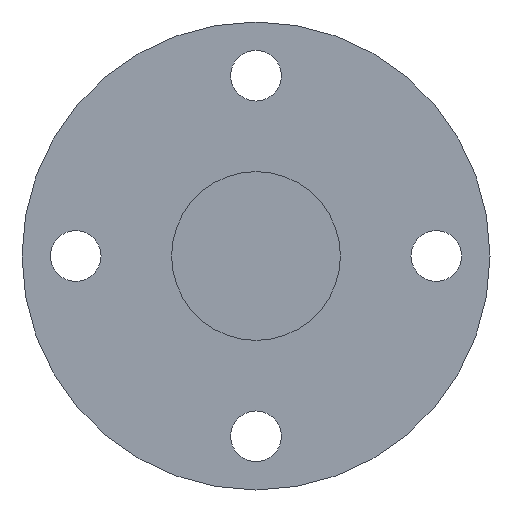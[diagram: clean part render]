
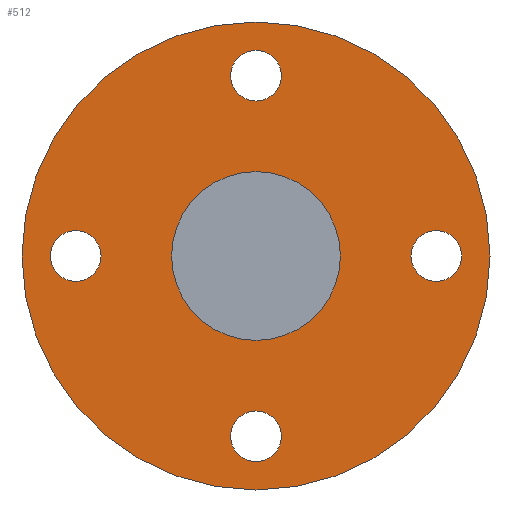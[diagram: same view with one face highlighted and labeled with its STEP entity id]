
A CAD part, left-side view. The second image highlights one B-rep face of the part: STEP entity #512.
In plain terms, the highlighted planar face has unit normal (-1, 0, 0).
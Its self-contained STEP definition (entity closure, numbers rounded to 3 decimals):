
#401=CARTESIAN_POINT('',(125.0,23.5,-3.3));
#402=VERTEX_POINT('',#401);
#403=CARTESIAN_POINT('',(125.0,23.5,0.));
#404=DIRECTION('',(1.0,0.0,0.0));
#405=DIRECTION('',(0.0,0.0,-1.0));
#406=AXIS2_PLACEMENT_3D('',#403,#404,#405);
#407=CIRCLE('',#406,3.3);
#408=EDGE_CURVE('',#402,#402,#407,.T.);
#421=CARTESIAN_POINT('',(125.0,-3.3,-23.5));
#422=VERTEX_POINT('',#421);
#423=CARTESIAN_POINT('',(125.0,0.,-23.5));
#424=DIRECTION('',(1.0,0.0,0.0));
#425=DIRECTION('',(0.0,-1.0,0.0));
#426=AXIS2_PLACEMENT_3D('',#423,#424,#425);
#427=CIRCLE('',#426,3.3);
#428=EDGE_CURVE('',#422,#422,#427,.T.);
#441=CARTESIAN_POINT('',(125.0,-23.5,3.3));
#442=VERTEX_POINT('',#441);
#443=CARTESIAN_POINT('',(125.0,-23.5,0.));
#444=DIRECTION('',(1.0,0.0,0.0));
#445=DIRECTION('',(0.0,0.0,1.0));
#446=AXIS2_PLACEMENT_3D('',#443,#444,#445);
#447=CIRCLE('',#446,3.3);
#448=EDGE_CURVE('',#442,#442,#447,.T.);
#461=CARTESIAN_POINT('',(125.0,3.3,23.5));
#462=VERTEX_POINT('',#461);
#463=CARTESIAN_POINT('',(125.0,0.0,23.5));
#464=DIRECTION('',(1.0,0.0,0.0));
#465=DIRECTION('',(0.0,1.0,0.0));
#466=AXIS2_PLACEMENT_3D('',#463,#464,#465);
#467=CIRCLE('',#466,3.3);
#468=EDGE_CURVE('',#462,#462,#467,.T.);
#473=CARTESIAN_POINT('',(125.0,0.0,20.75));
#474=DIRECTION('',(-1.0,0.0,0.0));
#475=DIRECTION('',(0.0,0.0,1.0));
#476=AXIS2_PLACEMENT_3D('',#473,#474,#475);
#477=PLANE('',#476);
#478=CARTESIAN_POINT('',(125.0,0.0,30.5));
#479=VERTEX_POINT('',#478);
#480=CARTESIAN_POINT('',(125.0,0.0,0.0));
#481=DIRECTION('',(-1.0,0.0,0.0));
#482=DIRECTION('',(0.0,0.0,1.0));
#483=AXIS2_PLACEMENT_3D('',#480,#481,#482);
#484=CIRCLE('',#483,30.5);
#485=EDGE_CURVE('',#479,#479,#484,.T.);
#486=ORIENTED_EDGE('',*,*,#485,.T.);
#487=EDGE_LOOP('',(#486));
#488=FACE_OUTER_BOUND('',#487,.T.);
#489=ORIENTED_EDGE('',*,*,#408,.T.);
#490=EDGE_LOOP('',(#489));
#491=FACE_BOUND('',#490,.T.);
#492=ORIENTED_EDGE('',*,*,#428,.T.);
#493=EDGE_LOOP('',(#492));
#494=FACE_BOUND('',#493,.T.);
#495=ORIENTED_EDGE('',*,*,#448,.T.);
#496=EDGE_LOOP('',(#495));
#497=FACE_BOUND('',#496,.T.);
#498=ORIENTED_EDGE('',*,*,#468,.T.);
#499=EDGE_LOOP('',(#498));
#500=FACE_BOUND('',#499,.T.);
#501=CARTESIAN_POINT('',(125.0,0.0,11.));
#502=VERTEX_POINT('',#501);
#503=CARTESIAN_POINT('',(125.0,0.0,0.0));
#504=DIRECTION('',(-1.0,0.0,0.0));
#505=DIRECTION('',(0.0,0.0,1.0));
#506=AXIS2_PLACEMENT_3D('',#503,#504,#505);
#507=CIRCLE('',#506,11.);
#508=EDGE_CURVE('',#502,#502,#507,.T.);
#509=ORIENTED_EDGE('',*,*,#508,.F.);
#510=EDGE_LOOP('',(#509));
#511=FACE_BOUND('',#510,.T.);
#512=ADVANCED_FACE('',(#488,#491,#494,#497,#500,#511),#477,.T.);
